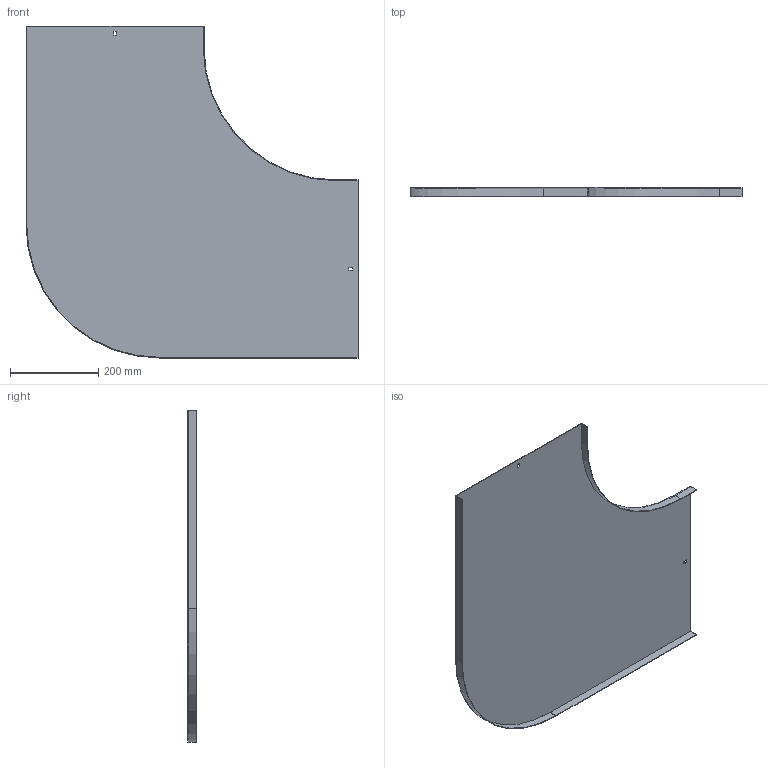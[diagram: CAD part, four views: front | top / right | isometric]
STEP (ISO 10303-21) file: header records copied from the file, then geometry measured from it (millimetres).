
FILE_DESCRIPTION (( 'STEP AP214' ), '1' );
FILE_NAME ('B2_10N3R400.step', '2025-02-21T10:54:24', ( '' ), ( '' ), 'SwSTEP 2.0', 'SolidWorks 2023', '' );
FILE_SCHEMA (( 'AUTOMOTIVE_DESIGN' ));
Length unit declared in the file: millimetre
Products named in the file (1): B2_10N3R400
Bounding box: 751.5 x 20 x 751.5 mm (x, y, z)
Volume: 718098.8 mm3; surface area: 961791.8 mm2
Topology: 1 solids, 1 shells, 26 faces, 72 edges, 48 vertices
Faces by surface type: plane 22, cylinder 4
Entity records: 855 total; most frequent: CARTESIAN_POINT 147, ORIENTED_EDGE 144, DIRECTION 134, EDGE_CURVE 72, VECTOR 64, LINE 64, VERTEX_POINT 48, AXIS2_PLACEMENT_3D 35
